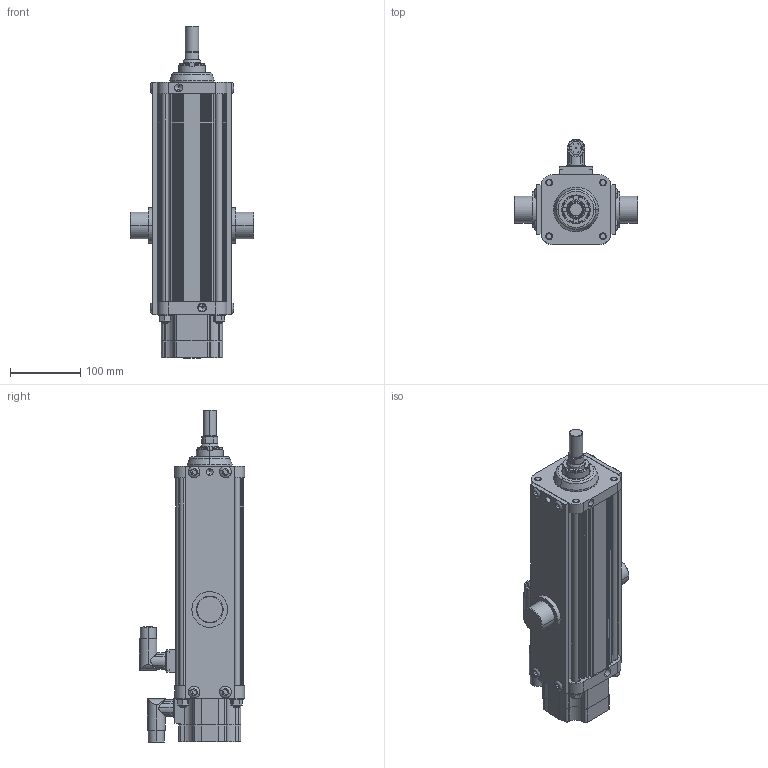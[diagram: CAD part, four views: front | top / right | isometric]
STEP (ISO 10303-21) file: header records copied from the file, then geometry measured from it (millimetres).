
FILE_DESCRIPTION (( 'STEP AP203' ), '1' );
FILE_NAME ('GSX40 – 8 inch, Trunnion Mount, euro conn, A rod,ABSOLUTE.step', '2007-08-18T06:46:04', ( '' ), ( '' ), 'SwSTEP 2.0', 'SolidWorks 2007', '' );
FILE_SCHEMA (( 'CONFIG_CONTROL_DESIGN' ));
Length unit declared in the file: inch
Products named in the file (22): 14604 Ret; 30935; 20728_8 INCH; Trunnion Plate Assy_TRUNNION PLATE-8"; 19819; 23017; 15073_15073-8"; 10581; GSX40 – 8 inch, Trunnion Mount, euro conn, A rod,ABSOLUTE; CASE-GSX40_30911-8"; 14604; Ball 14604; MAIN ROD_A-MAIN ROD-8"; 19021; END CAP-WITH OUT RB_30749; 20494; 29238; TIEROD_12349-8"; 11587; 12248; 12351
Assembly tree (53 placements, depth 3):
  GSX40 – 8 inch, Trunnion Mount, euro conn, A rod,ABSOLUTE
    11587  x4
    12351  x8
    14604  x2
      Ball 14604
      14604 Ret
      14604
    30935
    29238
    TIEROD_12349-8"  x4
    CASE-GSX40_30911-8"
    12248  x4
    MAIN ROD_A-MAIN ROD-8"
    Trunnion Plate Assy_TRUNNION PLATE-8"  x2
      15073_15073-8"
      10581
    19021
    END CAP-WITH OUT RB_30749
    20728_8 INCH
    20494
    23017
    19819
Bounding box: 175.21 x 149.49 x 471.34 mm (x, y, z)
Volume: 1966873.3 mm3; surface area: 740519.2 mm2
Topology: 70 solids, 70 shells, 1523 faces, 3908 edges, 2447 vertices
Faces by surface type: cylinder 710, plane 393, cone 242, torus 118, sphere 60
Entity records: 39978 total; most frequent: CARTESIAN_POINT 9536, DIRECTION 6092, ORIENTED_EDGE 5416, EDGE_CURVE 2708, AXIS2_PLACEMENT_3D 2450, VERTEX_POINT 1741, EDGE_LOOP 1321, CIRCLE 1296
